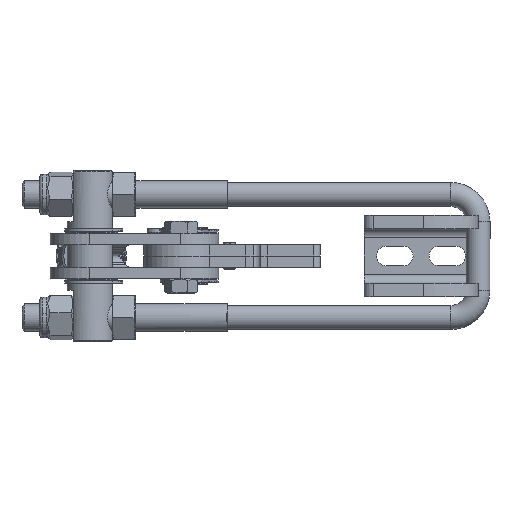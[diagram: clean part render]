
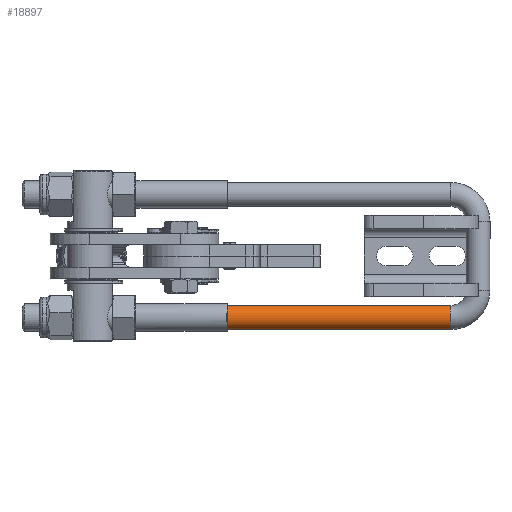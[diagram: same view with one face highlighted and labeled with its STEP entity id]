
A CAD part, left-side view. The second image highlights one B-rep face of the part: STEP entity #18897.
In plain terms, the highlighted cylindrical face has radius 5.25 mm (diameter 10.5 mm), a partial arc.
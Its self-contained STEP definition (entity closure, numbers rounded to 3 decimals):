
#188 = CARTESIAN_POINT ( 'NONE',  ( 12., 0., -32.25 ) ) ;
#534 = CARTESIAN_POINT ( 'NONE',  ( 12., 0., -27. ) ) ;
#579 = CARTESIAN_POINT ( 'NONE',  ( 12., 0., -27. ) ) ;
#1055 = VERTEX_POINT ( 'NONE', #23049 ) ;
#1213 = ORIENTED_EDGE ( 'NONE', *, *, #23653, .T. ) ;
#2094 = ORIENTED_EDGE ( 'NONE', *, *, #2349, .T. ) ;
#2194 = DIRECTION ( 'NONE',  ( 1., 0., 0. ) ) ;
#2313 = EDGE_CURVE ( 'NONE', #13049, #5339, #15607, .T. ) ;
#2349 = EDGE_CURVE ( 'NONE', #14681, #1055, #11821, .T. ) ;
#2857 = AXIS2_PLACEMENT_3D ( 'NONE', #579, #2962, #10434 ) ;
#2915 = DIRECTION ( 'NONE',  ( 0., 0., -1. ) ) ;
#2962 = DIRECTION ( 'NONE',  ( 1., 0., 0. ) ) ;
#3375 = DIRECTION ( 'NONE',  ( 1., 0., 0. ) ) ;
#5339 = VERTEX_POINT ( 'NONE', #20877 ) ;
#7161 = VECTOR ( 'NONE', #2194, 1000. ) ;
#7574 = CARTESIAN_POINT ( 'NONE',  ( 110., 0., -27. ) ) ;
#7695 = DIRECTION ( 'NONE',  ( 0., 0., -1. ) ) ;
#10274 = DIRECTION ( 'NONE',  ( 1., 0., 0. ) ) ;
#10434 = DIRECTION ( 'NONE',  ( 0., 0., -1. ) ) ;
#11470 = ORIENTED_EDGE ( 'NONE', *, *, #19807, .T. ) ;
#11821 = LINE ( 'NONE', #19518, #23238 ) ;
#12345 = FACE_OUTER_BOUND ( 'NONE', #15056, .T. ) ;
#12723 = AXIS2_PLACEMENT_3D ( 'NONE', #7574, #13374, #7695 ) ;
#13005 = CIRCLE ( 'NONE', #14610, 5.25 ) ;
#13049 = VERTEX_POINT ( 'NONE', #21316 ) ;
#13374 = DIRECTION ( 'NONE',  ( -1., 0., 0. ) ) ;
#13679 = CARTESIAN_POINT ( 'NONE',  ( 12., 0., -21.75 ) ) ;
#14610 = AXIS2_PLACEMENT_3D ( 'NONE', #534, #10274, #2915 ) ;
#14681 = VERTEX_POINT ( 'NONE', #13679 ) ;
#15056 = EDGE_LOOP ( 'NONE', ( #11470, #2094, #1213, #21135 ) ) ;
#15607 = LINE ( 'NONE', #188, #7161 ) ;
#16348 = CIRCLE ( 'NONE', #12723, 5.25 ) ;
#18897 = ADVANCED_FACE ( 'NONE', ( #12345 ), #21811, .T. ) ;
#19518 = CARTESIAN_POINT ( 'NONE',  ( 12., 0., -21.75 ) ) ;
#19807 = EDGE_CURVE ( 'NONE', #13049, #14681, #13005, .T. ) ;
#20877 = CARTESIAN_POINT ( 'NONE',  ( 110., 0., -32.25 ) ) ;
#21135 = ORIENTED_EDGE ( 'NONE', *, *, #2313, .F. ) ;
#21316 = CARTESIAN_POINT ( 'NONE',  ( 12., 0., -32.25 ) ) ;
#21811 = CYLINDRICAL_SURFACE ( 'NONE', #2857, 5.25 ) ;
#23049 = CARTESIAN_POINT ( 'NONE',  ( 110., 0., -21.75 ) ) ;
#23238 = VECTOR ( 'NONE', #3375, 1000. ) ;
#23653 = EDGE_CURVE ( 'NONE', #1055, #5339, #16348, .T. ) ;
